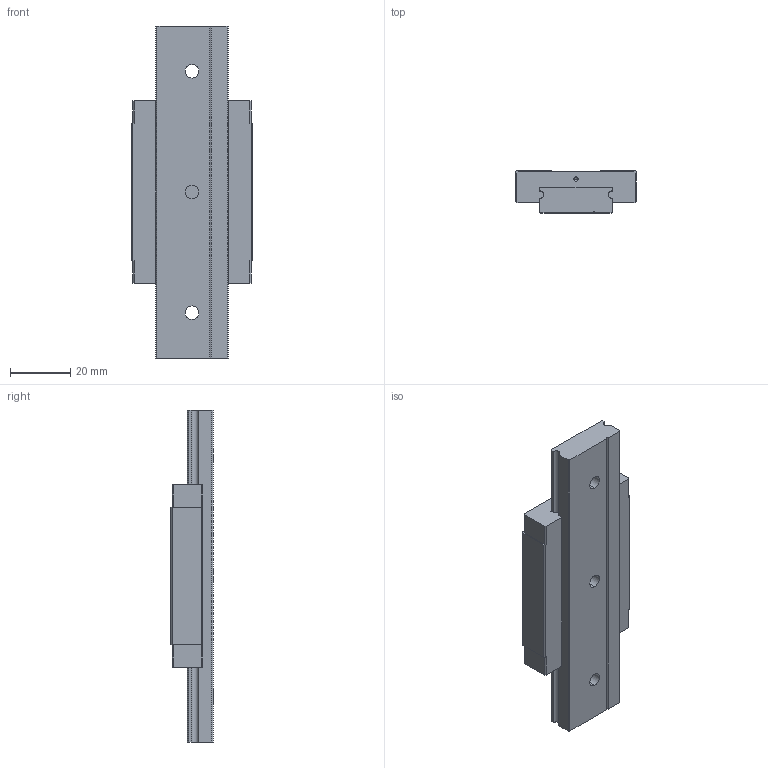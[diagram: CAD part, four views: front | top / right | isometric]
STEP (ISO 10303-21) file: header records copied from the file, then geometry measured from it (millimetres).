
FILE_DESCRIPTION((''),'2;1');
FILE_NAME('MGW12H_ASM','2008-07-11T',('minyao'),(''),'PRO/ENGINEER BY PARAMETRIC TECHNOLOGY CORPORATION, 2004360','PRO/ENGINEER BY PARAMETRIC TECHNOLOGY CORPORATION, 2004360','');
FILE_SCHEMA(('CONFIG_CONTROL_DESIGN'));
Length unit declared in the file: millimetre
Products named in the file (4): MANIFOLD_SOLID_BREP_413; MANIFOLD_SOLID_BREP_414; SAND94F7H93L_ASM; MGW12H_ASM
Assembly tree (3 placements, depth 3):
  MGW12H_ASM
    SAND94F7H93L_ASM
      MANIFOLD_SOLID_BREP_413
      MANIFOLD_SOLID_BREP_414
Bounding box: 40 x 14 x 110 mm (x, y, z)
Volume: 38795.5 mm3; surface area: 15852.5 mm2
Topology: 2 solids, 2 shells, 95 faces, 264 edges, 170 vertices
Faces by surface type: plane 53, cylinder 30, cone 12
Entity records: 3104 total; most frequent: DIRECTION 532, CARTESIAN_POINT 526, ORIENTED_EDGE 504, EDGE_CURVE 252, VECTOR 180, LINE 180, AXIS2_PLACEMENT_3D 176, VERTEX_POINT 170
